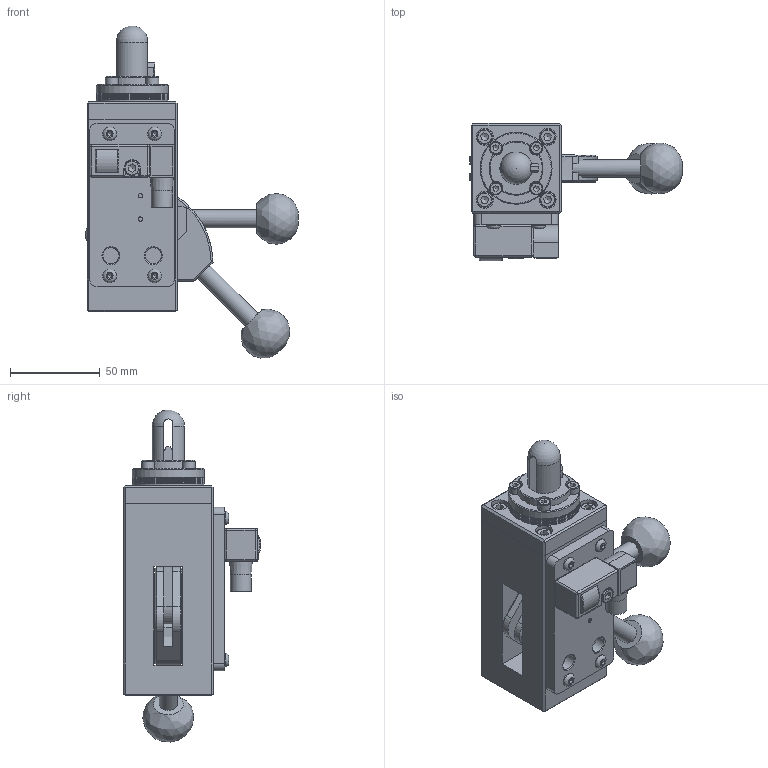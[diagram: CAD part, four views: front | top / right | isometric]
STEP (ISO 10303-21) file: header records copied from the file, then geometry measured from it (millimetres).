
FILE_DESCRIPTION(/* description */ (''),/* implementation_level */ '2;1');
FILE_NAME(/* name */ 'S:\Tom\INVENTOR FILES\AUTOMOTIVE\UNDERBODY CLAMPS\XPCB\SIMPLIFIED MODELS\STEP\XPCB-18-02-ES1-L.stp',/* time_stamp */ '2021-06-08T10:13:55+01:00',/* author */ ('RWilson'),/* organization */ (''),/* preprocessor_version */ 'ST-DEVELOPER v18.1',/* originating_system */ 'Autodesk Inventor 2021',/* authorisation */ '');
FILE_SCHEMA (('AUTOMOTIVE_DESIGN { 1 0 10303 214 3 1 1 }'));
Length unit declared in the file: millimetre
Products named in the file (10): XPCB-18-02-ES1-L; XPCB - BODY; XPCB - HANDLE; XPCB - TOP PLATE; XPCB - 1MM SHIM; XPCB - 0.5MM SHIM; XPCB - 18MM CLAMPING RING & PIN; XPCB - 18MM HOOK; XPCB - BLANKING COVER; XPCB - SWITCH ASSEMBLY
Assembly tree (13 placements, depth 2):
  XPCB-18-02-ES1-L
    XPCB - BODY
    XPCB - HANDLE  x2
    XPCB - TOP PLATE
    XPCB - 0.5MM SHIM  x2
    XPCB - 1MM SHIM  x3
    XPCB - 18MM CLAMPING RING & PIN
    XPCB - 18MM HOOK
    XPCB - BLANKING COVER
    XPCB - SWITCH ASSEMBLY
Bounding box: 118.37 x 76.31 x 184.64 mm (x, y, z)
Volume: 374979.8 mm3; surface area: 117842.9 mm2
Topology: 13 solids, 27 shells, 844 faces, 2182 edges, 1416 vertices
Faces by surface type: plane 382, cylinder 265, cone 125, torus 27, bspline 24, sphere 21
Full cylindrical faces by diameter (mm): 0.7 x8, 1.7 x1, 1.8 x2, 2 x1, 2.459 x6, 2.5 x3, 2.8 x2, 3 x4, 3.2 x2, 3.242 x8, 4 x8, 4.134 x1, 4.3 x2, 4.5 x4, 4.917 x3, 5 x4, 5.3 x1, 5.5 x2, 6 x3, 6.5 x2, 6.6 x3, 6.647 x12, 7 x4, 7.6 x4, 8 x6, 8.376 x2, 8.5 x5, 9 x3, 9.5 x4, 10 x5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
Entity records: 24483 total; most frequent: CARTESIAN_POINT 5082, DIRECTION 4162, ORIENTED_EDGE 3886, EDGE_CURVE 1943, AXIS2_PLACEMENT_3D 1616, VERTEX_POINT 1314, LINE 930, VECTOR 930
